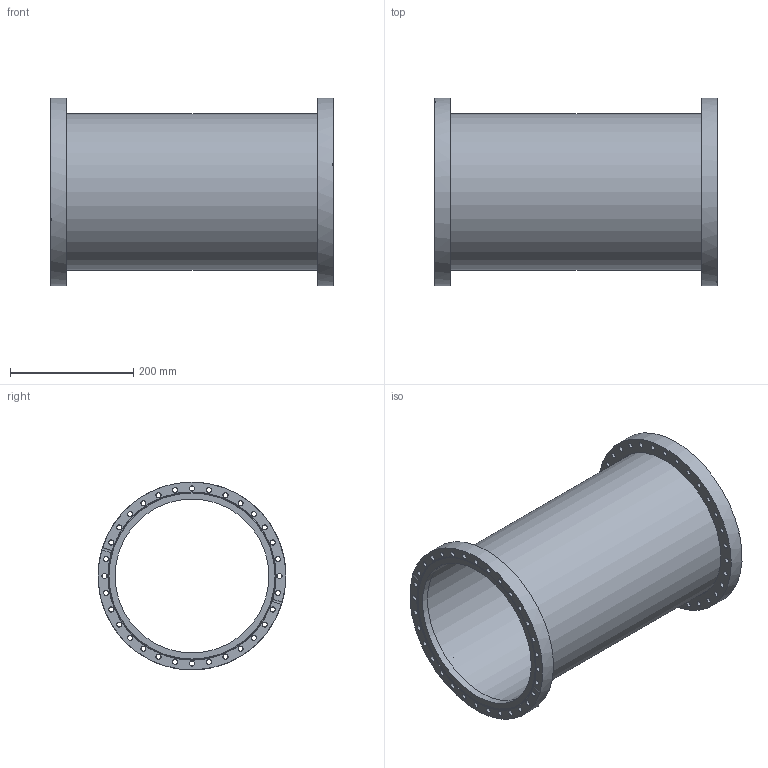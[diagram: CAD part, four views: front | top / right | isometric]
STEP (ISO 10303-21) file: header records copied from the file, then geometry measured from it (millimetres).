
FILE_DESCRIPTION( ( 'Unknown' ), '1' );
FILE_NAME( 'X:/Daten ( aktueller Bestand )/Projekte und Zeichnungen/Solid Edge/STP-Dateien/CF-Teile/7177R.stp', 'Unknown', ( 'Unknown' ), ( 'Unknown' ), 'PSStep 14.0', 'Unknown', ' ' );
FILE_SCHEMA( ( 'AUTOMOTIVE_DESIGN { 1 0 10303 214 1 1 1 1 }' ) );
Length unit declared in the file: millimetre
Products named in the file (6): 7517RG; 7517R-2; 7517RG-1; Assem1; 7517F; 7177F-1
Assembly tree (5 placements, depth 3):
  Assem1
    7517F
    7177F-1
    7517RG
      7517R-2
      7517RG-1
Bounding box: 458 x 305 x 305 mm (x, y, z)
Volume: 1719217.8 mm3; surface area: 949369.6 mm2
Topology: 4 solids, 4 shells, 98 faces, 324 edges, 236 vertices
Faces by surface type: cylinder 80, plane 14, cone 4
Full cylindrical faces by diameter (mm): 8 x32, 8.4 x32, 250 x3, 254 x1, 254.5 x1, 256.5 x1, 257 x1, 273 x2, 273.2 x1, 305 x2
Entity records: 3982 total; most frequent: CARTESIAN_POINT 585, DIRECTION 538, ORIENTED_EDGE 352, EDGE_LOOP 316, AXIS2_PLACEMENT_3D 265, EDGE_CURVE 176, FACE_OUTER_BOUND 174, VERTEX_POINT 168
